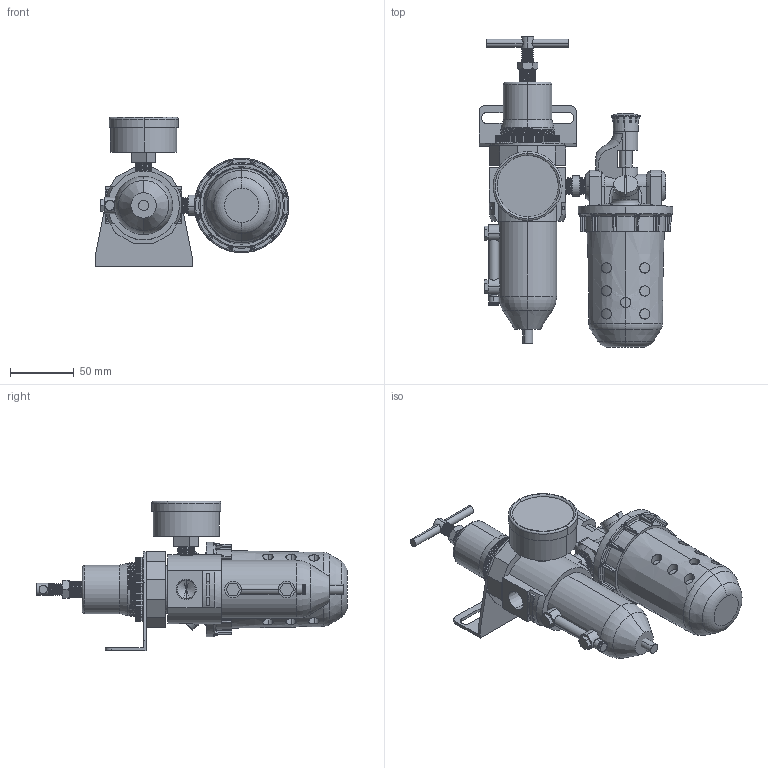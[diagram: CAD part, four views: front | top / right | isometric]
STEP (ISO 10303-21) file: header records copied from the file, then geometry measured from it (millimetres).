
FILE_DESCRIPTION (( 'STEP AP203' ), '1' );
FILE_NAME ('U668-03#YB#.STEP', '2016-02-16T07:08:49', ( '' ), ( '' ), 'SwSTEP 2.0', 'SolidWorks 2014', '' );
FILE_SCHEMA (( 'CONFIG_CONTROL_DESIGN' ));
Length unit declared in the file: millimetre
Products named in the file (25): 50-P-AD=1-4PT-2; KWSAR10Y57-1; D011W-4; R011-1; KWSAR10Y57; 50-P-AD=1-4PT-1; KWR10X51; D011W-5; L606-W-06-5; R119-02-5; R119-02-6; B011W-03; B012W-03#YGB#; R119-02-7; L606-W-06-3; 50-P-AD=1-4PT.SLDPRT; U668-03#YB#; L606-W-06-4; D011W-6; L606-W-04-1
Assembly tree (26 placements, depth 5):
  U668-03#YB#
    B012W-03#YGB#
      B011W-03
      50-P-AD=1-4PT.SLDPRT
        50-P-AD=1-4PT-1
        50-P-AD=1-4PT-2
      L606-W-06-5
      (unnamed)
        D011W-5  x2
        D011W-4
        D011W-6
      (unnamed)
        KWSAR10Y57
          KWSAR10Y57-1
          KWR10X51
        R011-1
        R119-02-5
        R119-02-6
        R119-02-7
    (unnamed)
      L606-W-06-4
      L606-W-06-3  x2
      L606-W-04-1
      (unnamed)
    (unnamed)
Bounding box: 151.75 x 243 x 117 mm (x, y, z)
Volume: 769035.3 mm3; surface area: 121279.7 mm2
Topology: 20 solids, 20 shells, 1233 faces, 3301 edges, 2113 vertices
Faces by surface type: plane 583, cylinder 348, cone 118, bspline 117, torus 37, sphere 30
Entity records: 57033 total; most frequent: CARTESIAN_POINT 25706, ORIENTED_EDGE 6446, DIRECTION 5498, EDGE_CURVE 3223, VERTEX_POINT 2085, AXIS2_PLACEMENT_3D 1920, VECTOR 1658, LINE 1658
